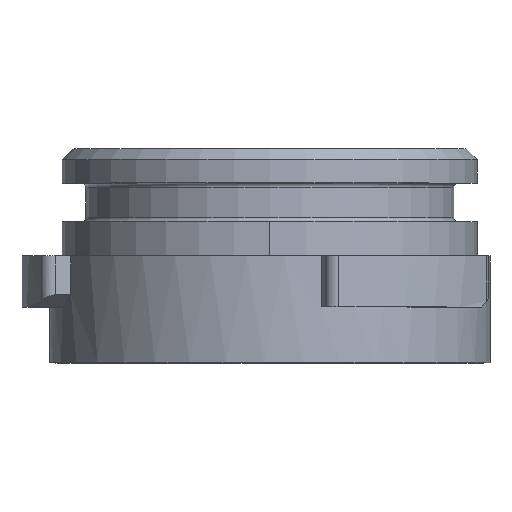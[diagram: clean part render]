
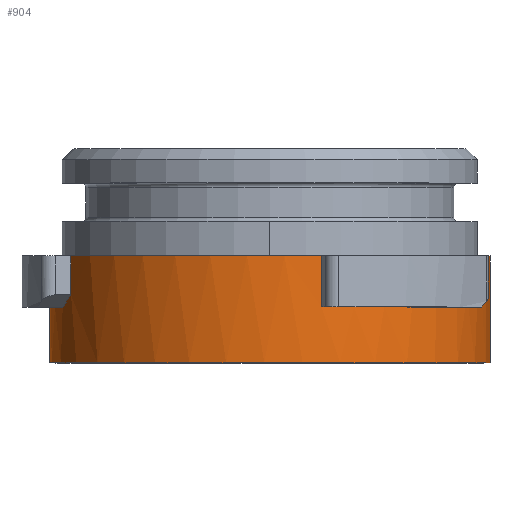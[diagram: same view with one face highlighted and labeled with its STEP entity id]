
A CAD part, top view. The second image highlights one B-rep face of the part: STEP entity #904.
In plain terms, the highlighted cylindrical face has radius 10.3 mm (diameter 20.6 mm), a partial arc.
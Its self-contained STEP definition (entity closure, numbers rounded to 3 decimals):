
#604=AXIS2_PLACEMENT_3D('Circle Axis2P3D',#602,#603,$) ;
#655=AXIS2_PLACEMENT_3D('Circle Axis2P3D',#653,#654,$) ;
#827=AXIS2_PLACEMENT_3D('Cylinder Axis2P3D',#824,#825,#826) ;
#840=AXIS2_PLACEMENT_3D('Circle Axis2P3D',#838,#839,$) ;
#867=AXIS2_PLACEMENT_3D('Circle Axis2P3D',#865,#866,$) ;
#887=AXIS2_PLACEMENT_3D('Circle Axis2P3D',#885,#886,$) ;
#599=CARTESIAN_POINT('Vertex',(-9.291,-346.905,-66.04)) ;
#602=CARTESIAN_POINT('Axis2P3D Location',(0.,-346.905,-70.486)) ;
#606=CARTESIAN_POINT('Vertex',(2.417,-346.905,-60.474)) ;
#650=CARTESIAN_POINT('Vertex',(9.224,-346.905,-65.902)) ;
#653=CARTESIAN_POINT('Axis2P3D Location',(0.,-346.905,-70.486)) ;
#657=CARTESIAN_POINT('Vertex',(10.297,-346.905,-70.23)) ;
#809=CARTESIAN_POINT('Vertex',(-9.291,-348.728,-66.04)) ;
#812=CARTESIAN_POINT('Line Origine',(-9.291,-347.817,-66.04)) ;
#824=CARTESIAN_POINT('Axis2P3D Location',(0.,-349.405,-70.486)) ;
#829=CARTESIAN_POINT('Line Origine',(-10.297,-349.405,-70.743)) ;
#833=CARTESIAN_POINT('Vertex',(-10.297,-351.905,-70.743)) ;
#835=CARTESIAN_POINT('Vertex',(-10.297,-349.305,-70.743)) ;
#838=CARTESIAN_POINT('Axis2P3D Location',(0.,-351.905,-70.486)) ;
#842=CARTESIAN_POINT('Vertex',(10.297,-351.905,-70.23)) ;
#845=CARTESIAN_POINT('Line Origine',(10.297,-349.405,-70.23)) ;
#850=CARTESIAN_POINT('Line Origine',(9.224,-349.405,-65.902)) ;
#854=CARTESIAN_POINT('Vertex',(9.224,-348.728,-65.902)) ;
#858=CARTESIAN_POINT('Control Point',(9.224,-348.728,-65.902)) ;
#859=CARTESIAN_POINT('Control Point',(9.075,-348.921,-65.603)) ;
#860=CARTESIAN_POINT('Control Point',(8.912,-349.113,-65.312)) ;
#861=CARTESIAN_POINT('Control Point',(8.735,-349.305,-65.028)) ;
#862=CARTESIAN_POINT('Vertex',(8.735,-349.305,-65.028)) ;
#865=CARTESIAN_POINT('Axis2P3D Location',(0.,-349.305,-70.486)) ;
#869=CARTESIAN_POINT('Vertex',(2.417,-349.305,-60.474)) ;
#872=CARTESIAN_POINT('Line Origine',(2.417,-349.405,-60.474)) ;
#878=CARTESIAN_POINT('Control Point',(-9.291,-348.728,-66.04)) ;
#879=CARTESIAN_POINT('Control Point',(-9.435,-348.921,-66.341)) ;
#880=CARTESIAN_POINT('Control Point',(-9.564,-349.113,-66.649)) ;
#881=CARTESIAN_POINT('Control Point',(-9.679,-349.305,-66.963)) ;
#882=CARTESIAN_POINT('Vertex',(-9.679,-349.305,-66.963)) ;
#885=CARTESIAN_POINT('Axis2P3D Location',(0.,-349.305,-70.486)) ;
#603=DIRECTION('Axis2P3D Direction',(-0.,1.,0.)) ;
#654=DIRECTION('Axis2P3D Direction',(-0.,1.,0.)) ;
#813=DIRECTION('Vector Direction',(0.,1.,0.)) ;
#825=DIRECTION('Axis2P3D Direction',(0.,1.,0.)) ;
#826=DIRECTION('Axis2P3D XDirection',(-1.,0.,-0.025)) ;
#830=DIRECTION('Vector Direction',(0.,1.,0.)) ;
#839=DIRECTION('Axis2P3D Direction',(0.,1.,0.)) ;
#846=DIRECTION('Vector Direction',(0.,1.,0.)) ;
#851=DIRECTION('Vector Direction',(0.,1.,0.)) ;
#866=DIRECTION('Axis2P3D Direction',(0.,1.,0.)) ;
#873=DIRECTION('Vector Direction',(0.,1.,0.)) ;
#886=DIRECTION('Axis2P3D Direction',(0.,1.,0.)) ;
#814=VECTOR('Line Direction',#813,1.) ;
#831=VECTOR('Line Direction',#830,1.) ;
#847=VECTOR('Line Direction',#846,1.) ;
#852=VECTOR('Line Direction',#851,1.) ;
#874=VECTOR('Line Direction',#873,1.) ;
#891=ORIENTED_EDGE('',*,*,#837,.F.) ;
#892=ORIENTED_EDGE('',*,*,#844,.T.) ;
#893=ORIENTED_EDGE('',*,*,#849,.T.) ;
#894=ORIENTED_EDGE('',*,*,#659,.F.) ;
#895=ORIENTED_EDGE('',*,*,#856,.T.) ;
#896=ORIENTED_EDGE('',*,*,#864,.F.) ;
#897=ORIENTED_EDGE('',*,*,#871,.T.) ;
#898=ORIENTED_EDGE('',*,*,#876,.F.) ;
#899=ORIENTED_EDGE('',*,*,#608,.F.) ;
#900=ORIENTED_EDGE('',*,*,#816,.T.) ;
#901=ORIENTED_EDGE('',*,*,#884,.F.) ;
#902=ORIENTED_EDGE('',*,*,#889,.T.) ;
#904=ADVANCED_FACE('\X2\538B76D6\X0\.1.1.2\\\X2\96F64EF651E04F554F53\X0\',(#903),#828,.T.) ;
#857=B_SPLINE_CURVE_WITH_KNOTS('',3,(#858,#859,#860,#861),.UNSPECIFIED.,.F.,.U.,(4,4),(0.,1.635),.UNSPECIFIED.) ;
#877=B_SPLINE_CURVE_WITH_KNOTS('',3,(#878,#879,#880,#881),.UNSPECIFIED.,.F.,.U.,(4,4),(0.,1.635),.UNSPECIFIED.) ;
#605=CIRCLE('generated circle',#604,10.3) ;
#656=CIRCLE('generated circle',#655,10.3) ;
#841=CIRCLE('generated circle',#840,10.3) ;
#868=CIRCLE('generated circle',#867,10.3) ;
#888=CIRCLE('generated circle',#887,10.3) ;
#828=CYLINDRICAL_SURFACE('generated cylinder',#827,10.3) ;
#608=EDGE_CURVE('',#600,#607,#605,.T.) ;
#659=EDGE_CURVE('',#651,#658,#656,.T.) ;
#816=EDGE_CURVE('',#600,#810,#815,.F.) ;
#837=EDGE_CURVE('',#834,#836,#832,.T.) ;
#844=EDGE_CURVE('',#834,#843,#841,.T.) ;
#849=EDGE_CURVE('',#843,#658,#848,.T.) ;
#856=EDGE_CURVE('',#651,#855,#853,.F.) ;
#864=EDGE_CURVE('',#863,#855,#857,.F.) ;
#871=EDGE_CURVE('',#863,#870,#868,.F.) ;
#876=EDGE_CURVE('',#607,#870,#875,.F.) ;
#884=EDGE_CURVE('',#883,#810,#877,.F.) ;
#889=EDGE_CURVE('',#883,#836,#888,.F.) ;
#890=EDGE_LOOP('',(#891,#892,#893,#894,#895,#896,#897,#898,#899,#900,#901,#902)) ;
#903=FACE_OUTER_BOUND('',#890,.T.) ;
#815=LINE('Line',#812,#814) ;
#832=LINE('Line',#829,#831) ;
#848=LINE('Line',#845,#847) ;
#853=LINE('Line',#850,#852) ;
#875=LINE('Line',#872,#874) ;
#600=VERTEX_POINT('',#599) ;
#607=VERTEX_POINT('',#606) ;
#651=VERTEX_POINT('',#650) ;
#658=VERTEX_POINT('',#657) ;
#810=VERTEX_POINT('',#809) ;
#834=VERTEX_POINT('',#833) ;
#836=VERTEX_POINT('',#835) ;
#843=VERTEX_POINT('',#842) ;
#855=VERTEX_POINT('',#854) ;
#863=VERTEX_POINT('',#862) ;
#870=VERTEX_POINT('',#869) ;
#883=VERTEX_POINT('',#882) ;
